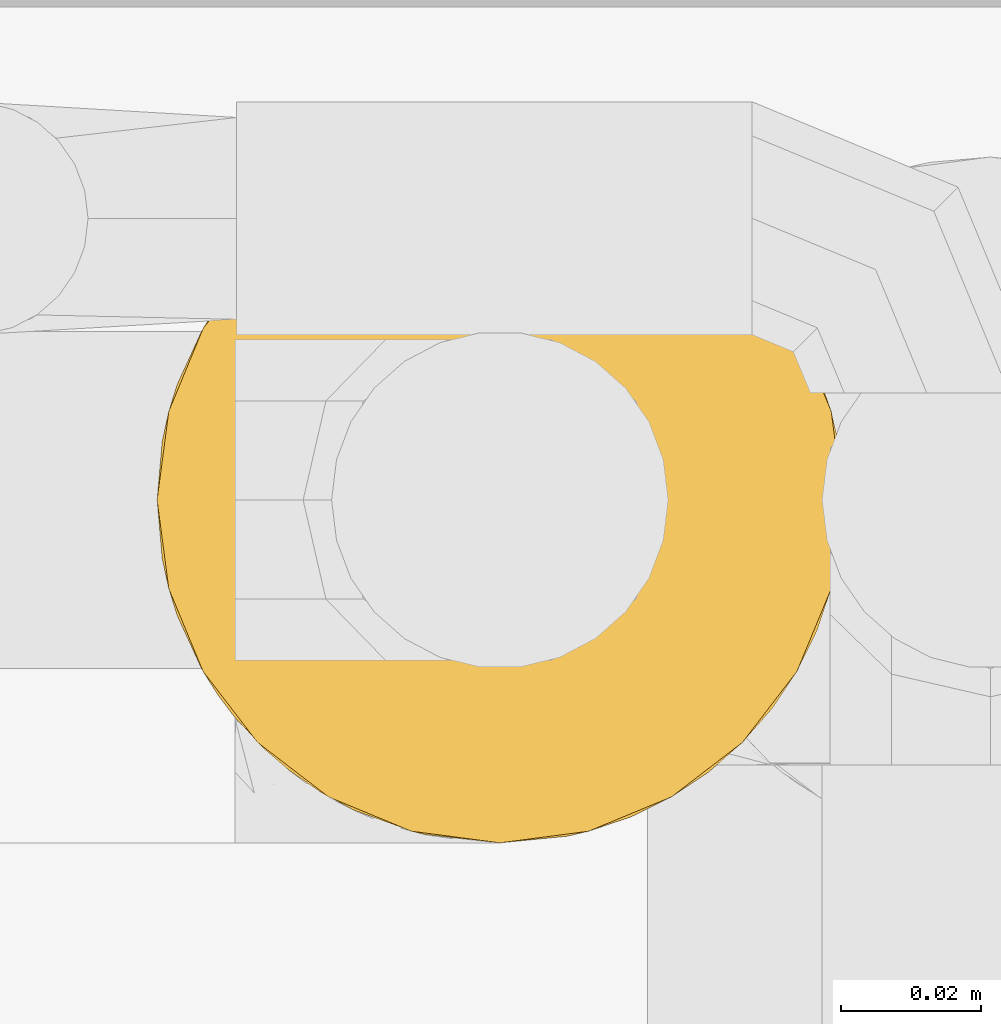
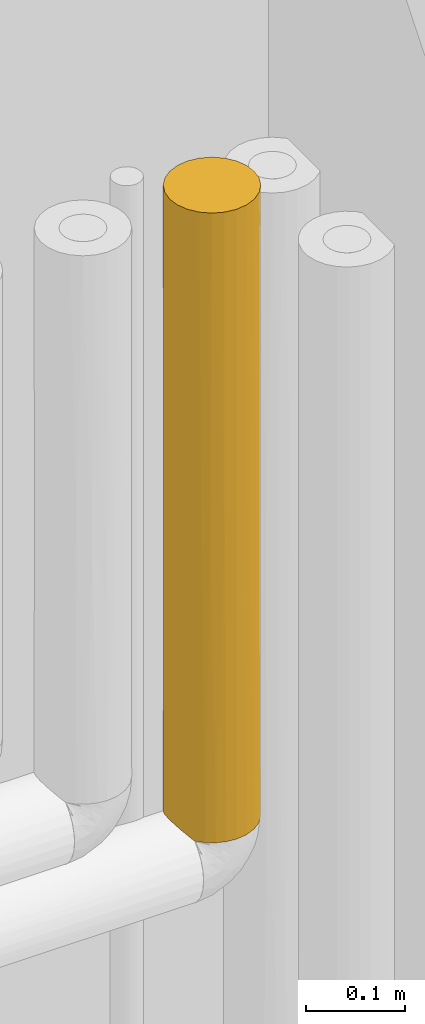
# One storey, part 61 of 94: 1 covering.
"""IFC2X3 building model written with IfcOpenShell, lengths in millimetres."""

from ifc_helpers import new_model, entity, si_unit, converted_unit, derived_unit, direction, frame, origin, place, context, subcontext, project, spatial, faceted_brep, material, element, save


model = new_model("IFC2X3")

# Units and contexts
model_context = context("Model", 3, precision=0.01, world=origin(), true_north=direction((6.123031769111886e-17, 1.0)))
body_context = subcontext(model_context, "Body", "Model", "MODEL_VIEW")
ifc_project = project(units=[si_unit("LENGTHUNIT", "METRE", prefix="MILLI"), si_unit("AREAUNIT", "SQUARE_METRE"), si_unit("VOLUMEUNIT", "CUBIC_METRE"), converted_unit("PLANEANGLEUNIT", "DEGREE", entity("IfcRatioMeasure", 0.017453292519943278), si_unit("PLANEANGLEUNIT", "RADIAN"), dimensions=[0, 0, 0, 0, 0, 0, 0]), si_unit("MASSUNIT", "GRAM", prefix="KILO"), derived_unit("MASSDENSITYUNIT", [(si_unit("MASSUNIT", "GRAM", prefix="KILO"), 1), (si_unit("LENGTHUNIT", "METRE"), -3)]), derived_unit("IONCONCENTRATIONUNIT", [(si_unit("MASSUNIT", "GRAM", prefix="KILO"), 1), (si_unit("LENGTHUNIT", "METRE"), -3)]), derived_unit("MOMENTOFINERTIAUNIT", [(si_unit("LENGTHUNIT", "METRE"), 4)]), si_unit("TIMEUNIT", "SECOND"), si_unit("FREQUENCYUNIT", "HERTZ"), si_unit("THERMODYNAMICTEMPERATUREUNIT", "DEGREE_CELSIUS"), derived_unit("THERMALTRANSMITTANCEUNIT", [(si_unit("MASSUNIT", "GRAM", prefix="KILO"), 1), (si_unit("THERMODYNAMICTEMPERATUREUNIT", "KELVIN"), -1), (si_unit("TIMEUNIT", "SECOND"), -3)]), derived_unit("THERMALCONDUCTANCEUNIT", [(si_unit("MASSUNIT", "GRAM", prefix="KILO"), 1), (si_unit("THERMODYNAMICTEMPERATUREUNIT", "KELVIN"), -1), (si_unit("TIMEUNIT", "SECOND"), -3), (si_unit("LENGTHUNIT", "METRE"), 1)]), derived_unit("VOLUMETRICFLOWRATEUNIT", [(si_unit("LENGTHUNIT", "METRE"), 3), (si_unit("TIMEUNIT", "SECOND"), -1)]), derived_unit("MASSFLOWRATEUNIT", [(si_unit("MASSUNIT", "GRAM", prefix="KILO"), 1), (si_unit("TIMEUNIT", "SECOND"), -1)]), derived_unit("ROTATIONALFREQUENCYUNIT", [(si_unit("TIMEUNIT", "SECOND"), -1)]), si_unit("ELECTRICCURRENTUNIT", "AMPERE"), si_unit("ELECTRICVOLTAGEUNIT", "VOLT"), si_unit("POWERUNIT", "WATT"), si_unit("FORCEUNIT", "NEWTON", prefix="KILO"), si_unit("ILLUMINANCEUNIT", "LUX"), si_unit("LUMINOUSFLUXUNIT", "LUMEN"), si_unit("LUMINOUSINTENSITYUNIT", "CANDELA"), derived_unit("USERDEFINED", [(si_unit("MASSUNIT", "GRAM", prefix="KILO"), -1), (si_unit("LENGTHUNIT", "METRE"), -2), (si_unit("TIMEUNIT", "SECOND"), 3), (si_unit("LUMINOUSFLUXUNIT", "LUMEN"), 1)]), derived_unit("USERDEFINED", [(si_unit("MASSUNIT", "GRAM", prefix="KILO"), 1), (si_unit("TIMEUNIT", "SECOND"), -3), (si_unit("LENGTHUNIT", "METRE"), 3), (si_unit("ELECTRICCURRENTUNIT", "AMPERE"), -2)]), derived_unit("SOUNDPOWERUNIT", [(si_unit("MASSUNIT", "GRAM", prefix="KILO"), 1), (si_unit("TIMEUNIT", "SECOND"), -3), (si_unit("LENGTHUNIT", "METRE"), 2)]), derived_unit("SOUNDPRESSUREUNIT", [(si_unit("MASSUNIT", "GRAM", prefix="KILO"), 1), (si_unit("LENGTHUNIT", "METRE"), -1), (si_unit("TIMEUNIT", "SECOND"), -2)]), derived_unit("LINEARVELOCITYUNIT", [(si_unit("LENGTHUNIT", "METRE"), 1), (si_unit("TIMEUNIT", "SECOND"), -1)]), si_unit("PRESSUREUNIT", "PASCAL"), derived_unit("USERDEFINED", [(si_unit("MASSUNIT", "GRAM", prefix="KILO"), 1), (si_unit("LENGTHUNIT", "METRE"), -2), (si_unit("TIMEUNIT", "SECOND"), -2)]), derived_unit("LINEARFORCEUNIT", [(si_unit("MASSUNIT", "GRAM", prefix="KILO"), 1), (si_unit("TIMEUNIT", "SECOND"), -2)]), derived_unit("PLANARFORCEUNIT", [(si_unit("MASSUNIT", "GRAM", prefix="KILO"), 1), (si_unit("LENGTHUNIT", "METRE"), -1), (si_unit("TIMEUNIT", "SECOND"), -2)]), derived_unit("SPECIFICHEATCAPACITYUNIT", [(si_unit("THERMODYNAMICTEMPERATUREUNIT", "KELVIN"), -1), (si_unit("LENGTHUNIT", "METRE"), 2), (si_unit("TIMEUNIT", "SECOND"), -2)]), derived_unit("HEATINGVALUEUNIT", [(si_unit("LENGTHUNIT", "METRE"), 2), (si_unit("TIMEUNIT", "SECOND"), -2)]), derived_unit("VAPORPERMEABILITYUNIT", [(si_unit("LENGTHUNIT", "METRE"), -1), (si_unit("TIMEUNIT", "SECOND"), 1)]), derived_unit("DYNAMICVISCOSITYUNIT", [(si_unit("MASSUNIT", "GRAM", prefix="KILO"), 1), (si_unit("TIMEUNIT", "SECOND"), -1), (si_unit("LENGTHUNIT", "METRE"), -1)]), derived_unit("THERMALEXPANSIONCOEFFICIENTUNIT", [(si_unit("THERMODYNAMICTEMPERATUREUNIT", "KELVIN"), -1)]), derived_unit("MODULUSOFELASTICITYUNIT", [(si_unit("MASSUNIT", "GRAM", prefix="KILO"), 1), (si_unit("LENGTHUNIT", "METRE"), -1), (si_unit("TIMEUNIT", "SECOND"), -2)]), derived_unit("ISOTHERMALMOISTURECAPACITYUNIT", [(si_unit("LENGTHUNIT", "METRE"), 3), (si_unit("MASSUNIT", "GRAM", prefix="KILO"), -1)]), derived_unit("MOISTUREDIFFUSIVITYUNIT", [(si_unit("TIMEUNIT", "SECOND"), -1), (si_unit("LENGTHUNIT", "METRE"), 2)])], contexts=[model_context])

# Site, building, storey
site_placement = place(None, origin())
site = spatial("IfcSite", under=ifc_project, at=site_placement, Name="Default", CompositionType="ELEMENT")
building_placement = place(site_placement, origin())
building = spatial("IfcBuilding", under=site, at=building_placement, CompositionType="ELEMENT")
storey_placement = place(building_placement, origin())
storey = spatial("IfcBuildingStorey", under=building, at=storey_placement, Name="Niveau 0", CompositionType="ELEMENT", Elevation=0.0)

# Covering
ifc_material = material(Name="Isolation - Laine minérale")
covering_placement = place(storey_placement, frame((-5909.897585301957, 9976.120352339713, 3262.0)))
element("IfcCovering", 1, at=covering_placement, inside=storey, material=ifc_material, Name="Isolation des canalisations:Laine minérale", ObjectType="Isolation des canalisations:Laine minérale", PredefinedType="INSULATION", context=body_context, shape_type="Brep", body=[
    faceted_brep([(12.725272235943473, 19.58435221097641, -774.0), (12.725272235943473, 81.8661922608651, -774.0), (20.474956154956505, 89.43799982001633, -774.0), (29.696487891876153, 95.12737949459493, -774.0), (39.94049838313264, 98.65694811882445, -774.0), (50.72527223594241, 99.85527223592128, -774.0), (63.44105192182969, 98.18120808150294, -774.0), (75.29027223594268, 93.27310032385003, -774.0), (85.46542839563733, 85.46542839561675, -774.0), (93.27310032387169, 75.29027223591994, -774.0), (98.1812080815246, 63.441051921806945, -774.0), (99.85527223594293, 50.725272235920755, -774.0), (98.1812080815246, 38.009492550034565, -774.0), (93.27310032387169, 26.16027223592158, -774.0), (85.46542839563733, 15.985116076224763, -774.0), (75.29027223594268, 8.17744414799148, -774.0), (63.44105192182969, 3.2693363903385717, -774.0), (50.72527223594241, 1.5952722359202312, -774.0), (39.94049838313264, 2.7935963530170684, -774.0), (29.696487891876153, 6.32316497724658, -774.0), (20.474956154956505, 12.01254465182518, -774.0), (8.177444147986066, 26.160272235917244, 0.0), (15.98511607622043, 15.98511607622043, 0.0), (26.16027223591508, 8.17744414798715, 0.0), (38.00949255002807, 3.26933639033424, 0.0), (50.72527223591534, 1.5952722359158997, 0.0), (63.44105192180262, 3.26933639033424, 0.0), (75.29027223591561, 8.17744414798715, 0.0), (85.46542839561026, 15.98511607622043, 0.0), (93.27310032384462, 26.160272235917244, 0.0), (98.18120808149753, 38.00949255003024, 0.0), (99.85527223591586, 50.72527223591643, 0.0), (98.18120808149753, 63.44105192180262, 0.0), (93.27310032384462, 75.29027223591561, 0.0), (85.46542839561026, 85.46542839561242, 0.0), (75.29027223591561, 93.2731003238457, 0.0), (63.44105192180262, 98.18120808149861, 0.0), (50.72527223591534, 99.85527223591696, 0.0), (38.00949255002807, 98.18120808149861, 0.0), (26.16027223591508, 93.2731003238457, 0.0), (15.98511607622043, 85.46542839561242, 0.0), (8.177444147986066, 75.29027223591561, 0.0), (3.2693363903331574, 63.44105192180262, 0.0), (1.5952722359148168, 50.72527223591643, 0.0), (3.2693363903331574, 38.00949255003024, 0.0), (89.7027217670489, 20.816823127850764, -331.2457609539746), (96.11547357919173, 31.92403498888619, -386.9999966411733), (98.91125302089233, 41.140484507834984, -285.3305038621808), (69.52650921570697, 5.335070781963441, -387.0), (99.85527223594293, 50.72527223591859, -387.0), (80.63372123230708, 11.74782261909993, -442.7542343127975), (60.310059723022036, 2.5392914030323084, -488.66949182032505), (50.72527223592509, 1.5952722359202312, -284.5130915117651), (50.72527223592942, 1.5952722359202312, -386.9996174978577), (24.928396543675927, 8.912856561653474, -402.21625022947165), (38.08543510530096, 3.249052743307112, -389.0221489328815), (10.339528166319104, 22.747628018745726, -386.6539911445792), (16.975563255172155, 15.022134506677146, -306.8707294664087), (1.5952722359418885, 50.72527223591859, -273.38334505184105), (3.242580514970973, 38.1097703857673, -392.3206896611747), (4.461372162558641, 34.190204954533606, -765.736099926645), (7.965081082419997, 26.531823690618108, -769.2398088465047), (1.5952722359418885, 50.725272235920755, -762.8700000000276), (2.3170998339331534, 42.33445912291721, -763.5918275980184), (3.242580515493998, 63.3407740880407, -392.320689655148), (10.3395281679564, 78.70291645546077, -386.6539912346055), (24.928396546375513, 92.5376879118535, -402.2162501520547), (16.85411415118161, 86.31321331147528, -494.0189100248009), (2.3170998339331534, 59.11608534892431, -763.5918275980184), (4.461372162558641, 67.26033951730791, -765.7360999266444), (7.965081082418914, 74.91872078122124, -769.2398088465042), (38.08543506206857, 98.20149171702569, -389.0221490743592), (50.72527223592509, 99.85527223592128, -284.5133455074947), (59.197544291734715, 99.11925436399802, -482.2083902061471), (69.52650926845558, 96.11547366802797, -442.75423795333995), (98.91125306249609, 60.31005975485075, -488.66949206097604), (96.11547366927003, 69.52650926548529, -387.0), (80.63372124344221, 89.70272184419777, -387.0), (89.70272184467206, 80.63372124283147, -442.7542380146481)], [[[0, 1, 2, 3, 4, 5, 6, 7, 8, 9, 10, 11, 12, 13, 14, 15, 16, 17, 18, 19, 20]], [[21, 22, 23, 24, 25, 26, 27, 28, 29, 30, 31, 32, 33, 34, 35, 36, 37, 38, 39, 40, 41, 42, 43, 44]], [[29, 28, 45]], [[12, 46, 13]], [[30, 29, 46]], [[47, 30, 46]], [[15, 48, 16]], [[49, 12, 11]], [[13, 45, 14]], [[30, 47, 31]], [[46, 45, 13]], [[28, 27, 50]], [[45, 46, 29]], [[51, 17, 16]], [[48, 27, 26]], [[31, 47, 49]], [[12, 47, 46]], [[26, 25, 52, 53]], [[50, 48, 15]], [[50, 27, 48]], [[14, 45, 50]], [[14, 50, 15]], [[48, 51, 16]], [[53, 51, 26]], [[50, 45, 28]], [[26, 51, 48]], [[17, 51, 53]], [[49, 47, 12]], [[23, 54, 55]], [[19, 18, 55]], [[22, 56, 57]], [[43, 58, 44]], [[24, 52, 25]], [[52, 24, 55]], [[17, 55, 18]], [[54, 20, 19]], [[58, 59, 44]], [[54, 57, 20]], [[59, 60, 61]], [[57, 56, 0]], [[23, 55, 24]], [[62, 63, 58]], [[19, 55, 54]], [[58, 63, 59]], [[22, 21, 56]], [[0, 56, 61]], [[57, 0, 20]], [[56, 21, 59]], [[59, 61, 56]], [[59, 63, 60]], [[57, 23, 22]], [[44, 59, 21]], [[23, 57, 54]], [[55, 17, 53, 52]], [[58, 42, 64]], [[42, 58, 43]], [[41, 65, 64]], [[40, 66, 67]], [[68, 64, 69]], [[68, 62, 58]], [[64, 70, 69]], [[58, 64, 68]], [[41, 40, 65]], [[65, 1, 70]], [[70, 64, 65]], [[40, 39, 66]], [[40, 67, 65]], [[66, 2, 67]], [[39, 71, 66]], [[1, 67, 2]], [[5, 4, 71]], [[3, 66, 71]], [[2, 66, 3]], [[71, 39, 38]], [[72, 71, 38]], [[5, 71, 72]], [[37, 72, 38]], [[3, 71, 4]], [[1, 65, 67]], [[64, 42, 41]], [[73, 36, 74]], [[32, 75, 76]], [[36, 73, 72]], [[74, 77, 7]], [[77, 74, 35]], [[36, 72, 37]], [[34, 77, 35]], [[5, 72, 73]], [[77, 8, 7]], [[7, 6, 74]], [[33, 76, 78]], [[11, 75, 49]], [[76, 33, 32]], [[76, 9, 78]], [[34, 78, 77]], [[49, 32, 31]], [[8, 77, 78]], [[33, 78, 34]], [[73, 74, 6]], [[9, 8, 78]], [[76, 75, 10]], [[9, 76, 10]], [[35, 74, 36]], [[49, 75, 32]], [[5, 73, 6]], [[75, 11, 10]], [[63, 62, 68, 69, 70, 1, 0, 61, 60]]]),
])

save(model, "model.ifc")
